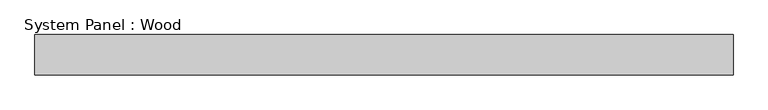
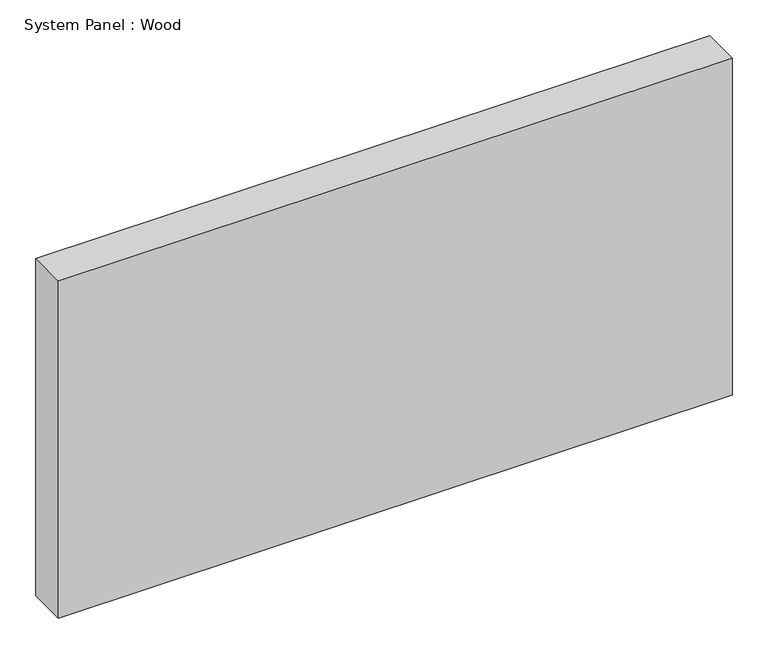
"""IFC4 building model written with IfcOpenShell, lengths in millimetres: plate geometry, System Panel : Wood."""

from ifc_helpers import new_model, si_unit, origin, origin_with_axes, place, context, project, spatial, polyline, outline, extrude, source, transform, mapped, element, save


def system_panel_wood_ad01dd95(model_context):
    return source(origin(), model_context, "Body", "SweptSolid", [
        extrude(outline(polyline([(546.4175, -44.45), (-546.4175, -44.45), (-546.4175, 19.05), (546.4175, 19.05), (546.4175, -44.45)])), origin_with_axes(), (0.0, 0.0, 1.0), 577.85),
    ])


if __name__ == "__main__":
    model = new_model("IFC4")
    model_context = context("Model", 3, world=origin())
    ifc_project = project(units=[si_unit("LENGTHUNIT", "METRE", prefix="MILLI")], contexts=[model_context])
    site = spatial("IfcSite", under=ifc_project)
    building = spatial("IfcBuilding", under=site)
    placement = place(None, origin())
    system_panel_wood_shape = system_panel_wood_ad01dd95(model_context)
    element("IfcPlate", 1, ObjectType="System Panel : Wood", at=placement, inside=building, context=model_context, shape_type="MappedRepresentation", body=[
        mapped(system_panel_wood_shape, transform((0.0, 0.0, 0.0), x_axis=(1.0, 0.0, 0.0), y_axis=(0.0, 1.0, 0.0), z_axis=(0.0, 0.0, 1.0))),
    ])
    save(model, "model.ifc")
